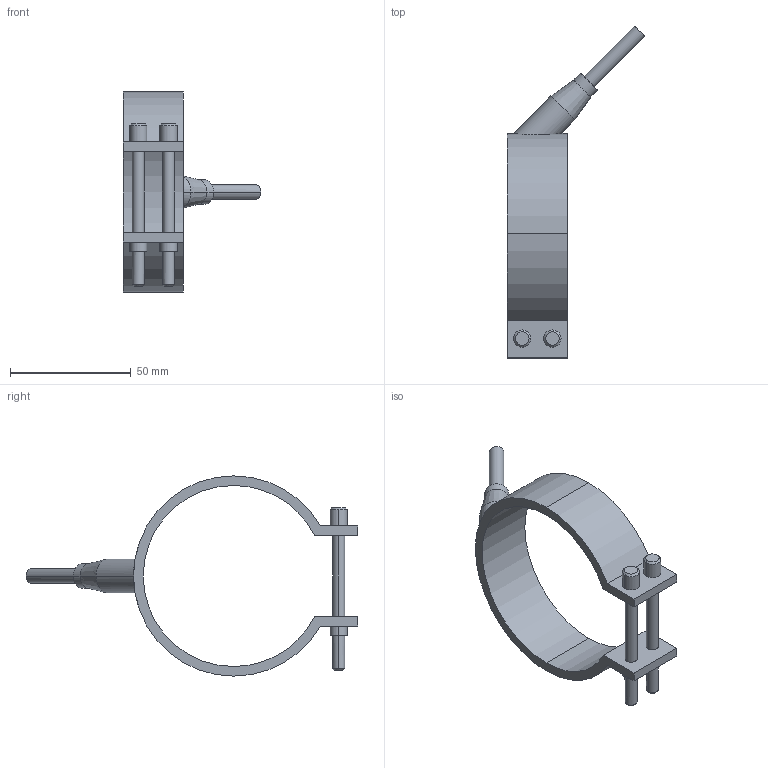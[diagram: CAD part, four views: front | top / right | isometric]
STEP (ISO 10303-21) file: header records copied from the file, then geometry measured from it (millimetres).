
FILE_DESCRIPTION(('CATIA V5 STEP Exchange'),'2;1');
FILE_NAME('C:\Users\Utente\Desktop\IO LAVORO\3D X SITO CF\X SITO\PLASTICA\RF1\29075025.stp','2021-03-29T18:17:05+00:00',('none'),('none'),'CATIA Version 5 Release 20 GA (IN-10)','CATIA V5 STEP AP203','none');
FILE_SCHEMA(('CONFIG_CONTROL_DESIGN'));
Length unit declared in the file: millimetre
Products named in the file (1): 29075025
Bounding box: 57.05 x 137.55 x 83 mm (x, y, z)
Volume: 31824.7 mm3; surface area: 17833.8 mm2
Topology: 1 solids, 1 shells, 54 faces, 125 edges, 81 vertices
Faces by surface type: cylinder 28, plane 16, cone 10
Entity records: 1732 total; most frequent: CARTESIAN_POINT 486, ORIENTED_EDGE 250, DIRECTION 215, EDGE_CURVE 125, AXIS2_PLACEMENT_3D 108, VERTEX_POINT 81, EDGE_LOOP 66, VECTOR 56
